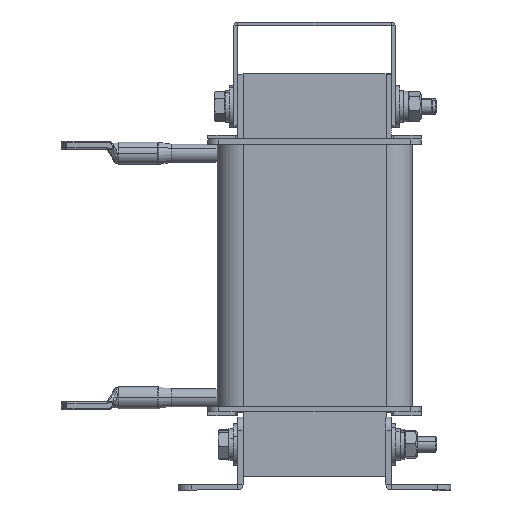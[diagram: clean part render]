
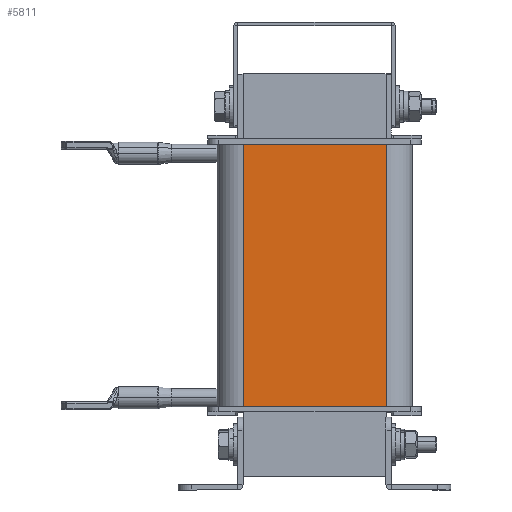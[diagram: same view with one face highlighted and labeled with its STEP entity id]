
A CAD part, left-side view. The second image highlights one B-rep face of the part: STEP entity #5811.
In plain terms, the highlighted planar face has unit normal (-1, 0, 0).
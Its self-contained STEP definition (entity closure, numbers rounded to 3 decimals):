
#757 = VECTOR ( 'NONE', #2065, 1000. ) ;
#886 = VECTOR ( 'NONE', #3710, 1000. ) ;
#1035 = VERTEX_POINT ( 'NONE', #6180 ) ;
#1324 = PLANE ( 'NONE',  #6607 ) ;
#2036 = EDGE_CURVE ( 'NONE', #12948, #10344, #7888, .T. ) ;
#2065 = DIRECTION ( 'NONE',  ( 0., -1., 0. ) ) ;
#3004 = CARTESIAN_POINT ( 'NONE',  ( -27., -27.5, -101. ) ) ;
#3377 = CARTESIAN_POINT ( 'NONE',  ( -27., 27.5, -101. ) ) ;
#3710 = DIRECTION ( 'NONE',  ( 0., 0., -1. ) ) ;
#4186 = LINE ( 'NONE', #3004, #6588 ) ;
#5150 = DIRECTION ( 'NONE',  ( 0., 0., 1. ) ) ;
#5538 = EDGE_CURVE ( 'NONE', #12948, #11311, #10909, .T. ) ;
#5642 = FACE_OUTER_BOUND ( 'NONE', #9731, .T. ) ;
#5786 = CARTESIAN_POINT ( 'NONE',  ( -27., 37.5, -101. ) ) ;
#5811 = ADVANCED_FACE ( 'NONE', ( #5642 ), #1324, .T. ) ;
#6040 = DIRECTION ( 'NONE',  ( 0., -1., 0. ) ) ;
#6180 = CARTESIAN_POINT ( 'NONE',  ( -27., -27.5, -101. ) ) ;
#6189 = LINE ( 'NONE', #12837, #9360 ) ;
#6588 = VECTOR ( 'NONE', #5150, 1000. ) ;
#6607 = AXIS2_PLACEMENT_3D ( 'NONE', #5786, #10233, #13545 ) ;
#6987 = ORIENTED_EDGE ( 'NONE', *, *, #2036, .T. ) ;
#7351 = ORIENTED_EDGE ( 'NONE', *, *, #11865, .T. ) ;
#7888 = LINE ( 'NONE', #13751, #886 ) ;
#8621 = CARTESIAN_POINT ( 'NONE',  ( -27., 37.5, 0. ) ) ;
#9360 = VECTOR ( 'NONE', #6040, 1000. ) ;
#9731 = EDGE_LOOP ( 'NONE', ( #12091, #6987, #11554, #7351 ) ) ;
#10233 = DIRECTION ( 'NONE',  ( -1., 0., 0. ) ) ;
#10344 = VERTEX_POINT ( 'NONE', #3377 ) ;
#10909 = LINE ( 'NONE', #8621, #757 ) ;
#11311 = VERTEX_POINT ( 'NONE', #14397 ) ;
#11554 = ORIENTED_EDGE ( 'NONE', *, *, #11621, .T. ) ;
#11621 = EDGE_CURVE ( 'NONE', #10344, #1035, #6189, .T. ) ;
#11865 = EDGE_CURVE ( 'NONE', #1035, #11311, #4186, .T. ) ;
#12091 = ORIENTED_EDGE ( 'NONE', *, *, #5538, .F. ) ;
#12837 = CARTESIAN_POINT ( 'NONE',  ( -27., 37.5, -101. ) ) ;
#12948 = VERTEX_POINT ( 'NONE', #12958 ) ;
#12958 = CARTESIAN_POINT ( 'NONE',  ( -27., 27.5, 0. ) ) ;
#13545 = DIRECTION ( 'NONE',  ( 0., 0., 1. ) ) ;
#13751 = CARTESIAN_POINT ( 'NONE',  ( -27., 27.5, -101. ) ) ;
#14397 = CARTESIAN_POINT ( 'NONE',  ( -27., -27.5, 0. ) ) ;
